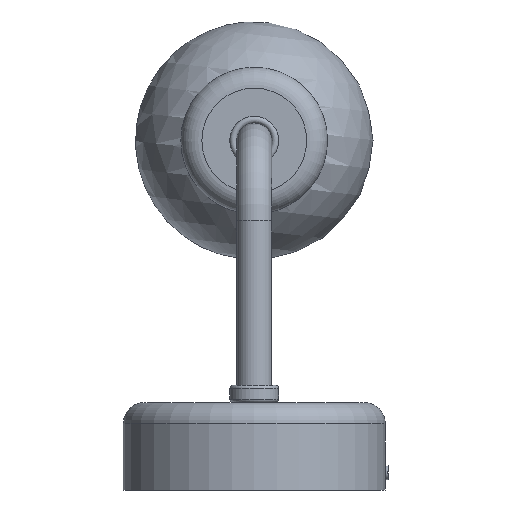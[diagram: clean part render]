
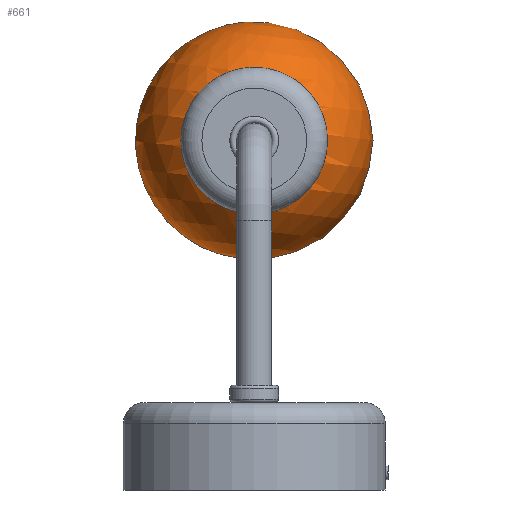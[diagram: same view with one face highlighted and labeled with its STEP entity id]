
A CAD part, front view. The second image highlights one B-rep face of the part: STEP entity #661.
In plain terms, the highlighted spherical face has radius 34 mm.
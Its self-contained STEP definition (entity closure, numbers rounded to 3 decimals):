
#39=SPHERICAL_SURFACE('',#897,34.);
#70=FACE_BOUND('',#233,.T.);
#149=CIRCLE('',#896,16.142);
#150=CIRCLE('',#898,34.);
#188=FACE_OUTER_BOUND('',#232,.T.);
#232=EDGE_LOOP('',(#608,#609));
#233=EDGE_LOOP('',(#610));
#347=VERTEX_POINT('',#1405);
#348=VERTEX_POINT('',#1408);
#349=VERTEX_POINT('',#1409);
#435=EDGE_CURVE('',#347,#347,#149,.T.);
#436=EDGE_CURVE('',#348,#349,#150,.T.);
#608=ORIENTED_EDGE('',*,*,#436,.T.);
#609=ORIENTED_EDGE('',*,*,#436,.F.);
#610=ORIENTED_EDGE('',*,*,#435,.T.);
#661=ADVANCED_FACE('',(#188,#70),#39,.T.);
#896=AXIS2_PLACEMENT_3D('',#1406,#1125,#1126);
#897=AXIS2_PLACEMENT_3D('',#1407,#1127,#1128);
#898=AXIS2_PLACEMENT_3D('',#1410,#1129,#1130);
#1125=DIRECTION('center_axis',(0.,-1.,0.));
#1126=DIRECTION('ref_axis',(1.,0.,0.));
#1127=DIRECTION('center_axis',(0.,0.,1.));
#1128=DIRECTION('ref_axis',(1.,0.,0.));
#1129=DIRECTION('center_axis',(0.,-1.,0.));
#1130=DIRECTION('ref_axis',(-1.,0.,0.));
#1405=CARTESIAN_POINT('',(16.142,29.924,0.));
#1406=CARTESIAN_POINT('Origin',(0.,29.924,0.));
#1407=CARTESIAN_POINT('Origin',(0.,0.,0.));
#1408=CARTESIAN_POINT('',(0.,0.,34.));
#1409=CARTESIAN_POINT('',(0.,0.,-34.));
#1410=CARTESIAN_POINT('Origin',(0.,0.,0.));
